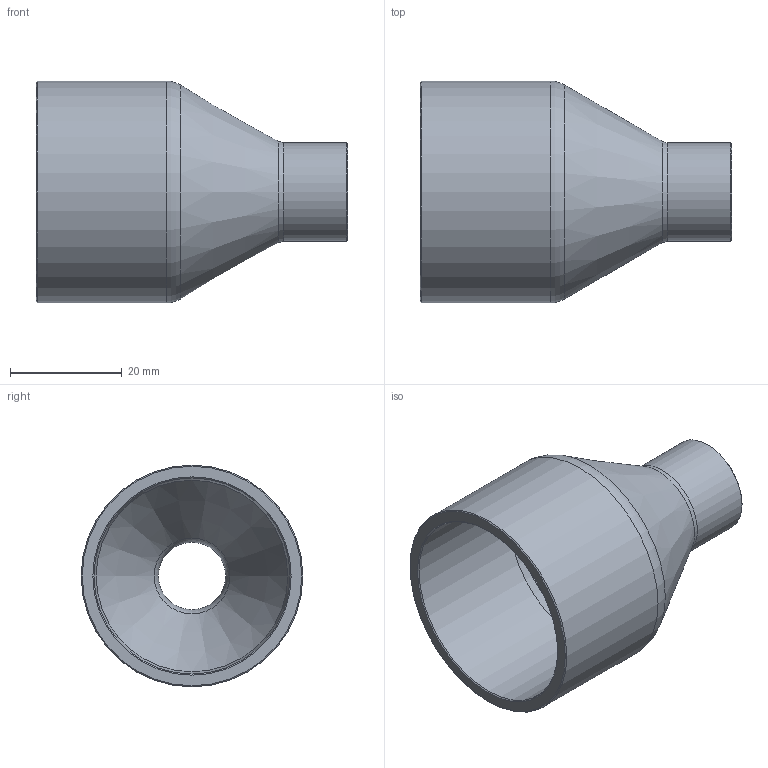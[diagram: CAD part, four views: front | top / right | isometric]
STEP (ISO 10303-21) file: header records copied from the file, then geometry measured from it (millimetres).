
FILE_DESCRIPTION((''),'2;1');
FILE_NAME('G:\SANHA-Ternat\Technik\Management\Bouwmaten + markeringen\z-maattekeningen 3D\29000s\2924013812_3d.stp','2017-08-04T11:11:41',('vdvijverd'),(''),'Autodesk Inventor 2009','Autodesk Inventor 2009','');
FILE_SCHEMA(('AUTOMOTIVE_DESIGN { 1 0 10303 214 1 1 1 1 }'));
Length unit declared in the file: millimetre
Products named in the file (1): 2924013812_3d
Bounding box: 55.8 x 39.7 x 39.7 mm (x, y, z)
Volume: 12772.3 mm3; surface area: 10845.4 mm2
Topology: 1 solids, 1 shells, 17 faces, 32 edges, 17 vertices
Faces by surface type: cone 6, cylinder 4, bspline 3, plane 2, torus 2
Full cylindrical faces by diameter (mm): 12.82 x1, 17.62 x1, 35.105 x1, 39.705 x1
Entity records: 494 total; most frequent: CARTESIAN_POINT 184, DIRECTION 64, ORIENTED_EDGE 34, EDGE_LOOP 34, AXIS2_PLACEMENT_3D 32, VERTEX_POINT 17, CIRCLE 17, EDGE_CURVE 17
